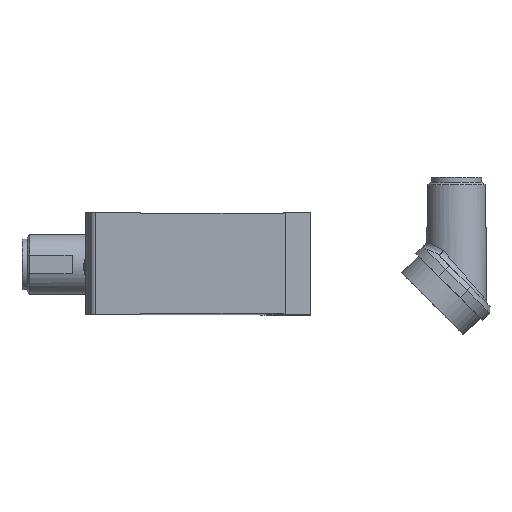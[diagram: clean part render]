
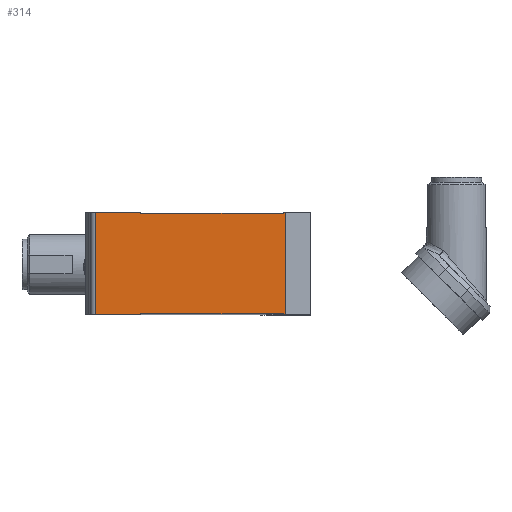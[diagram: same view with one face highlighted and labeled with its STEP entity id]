
A CAD part, top view. The second image highlights one B-rep face of the part: STEP entity #314.
In plain terms, the highlighted planar face has unit normal (0, 0, 1).
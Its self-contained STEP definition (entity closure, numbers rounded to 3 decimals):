
#314 = ADVANCED_FACE( '', ( #754 ), #755, .F. );
#754 = FACE_OUTER_BOUND( '', #1571, .T. );
#755 = PLANE( '', #1572 );
#1571 = EDGE_LOOP( '', ( #2861, #2862, #2863, #2864, #2865, #2866, #2867, #2868, #2869, #2870, #2871, #2872 ) );
#1572 = AXIS2_PLACEMENT_3D( '', #2873, #2874, #2875 );
#2861 = ORIENTED_EDGE( '', *, *, #4151, .F. );
#2862 = ORIENTED_EDGE( '', *, *, #4006, .T. );
#2863 = ORIENTED_EDGE( '', *, *, #4136, .T. );
#2864 = ORIENTED_EDGE( '', *, *, #4115, .T. );
#2865 = ORIENTED_EDGE( '', *, *, #4102, .T. );
#2866 = ORIENTED_EDGE( '', *, *, #4126, .T. );
#2867 = ORIENTED_EDGE( '', *, *, #4148, .T. );
#2868 = ORIENTED_EDGE( '', *, *, #4156, .T. );
#2869 = ORIENTED_EDGE( '', *, *, #4057, .F. );
#2870 = ORIENTED_EDGE( '', *, *, #4069, .T. );
#2871 = ORIENTED_EDGE( '', *, *, #4050, .T. );
#2872 = ORIENTED_EDGE( '', *, *, #4157, .T. );
#2873 = CARTESIAN_POINT( '', ( -34., 20.4, 110. ) );
#2874 = DIRECTION( '', ( 0., 0., -1. ) );
#2875 = DIRECTION( '', ( 0., -1., 0. ) );
#4006 = EDGE_CURVE( '', #4810, #4814, #4816, .T. );
#4050 = EDGE_CURVE( '', #4884, #4893, #4895, .T. );
#4057 = EDGE_CURVE( '', #4907, #4909, #4910, .T. );
#4069 = EDGE_CURVE( '', #4907, #4884, #4927, .T. );
#4102 = EDGE_CURVE( '', #4982, #4980, #4983, .T. );
#4115 = EDGE_CURVE( '', #4999, #4982, #5001, .T. );
#4126 = EDGE_CURVE( '', #4980, #5015, #5017, .T. );
#4136 = EDGE_CURVE( '', #4814, #4999, #5030, .T. );
#4148 = EDGE_CURVE( '', #5015, #5048, #5050, .T. );
#4151 = EDGE_CURVE( '', #4810, #5054, #5055, .T. );
#4156 = EDGE_CURVE( '', #5048, #4909, #5063, .T. );
#4157 = EDGE_CURVE( '', #4893, #5054, #5064, .T. );
#4810 = VERTEX_POINT( '', #6304 );
#4814 = VERTEX_POINT( '', #6309 );
#4816 = LINE( '', #6311, #6312 );
#4884 = VERTEX_POINT( '', #6448 );
#4893 = VERTEX_POINT( '', #6459 );
#4895 = LINE( '', #6462, #6463 );
#4907 = VERTEX_POINT( '', #6479 );
#4909 = VERTEX_POINT( '', #6482 );
#4910 = LINE( '', #6483, #6484 );
#4927 = LINE( '', #6509, #6510 );
#4980 = VERTEX_POINT( '', #6584 );
#4982 = VERTEX_POINT( '', #6587 );
#4983 = LINE( '', #6588, #6589 );
#4999 = VERTEX_POINT( '', #6615 );
#5001 = LINE( '', #6618, #6619 );
#5015 = VERTEX_POINT( '', #6640 );
#5017 = LINE( '', #6643, #6644 );
#5030 = LINE( '', #6663, #6664 );
#5048 = VERTEX_POINT( '', #6687 );
#5050 = LINE( '', #6690, #6691 );
#5054 = VERTEX_POINT( '', #6696 );
#5055 = LINE( '', #6697, #6698 );
#5063 = LINE( '', #6709, #6710 );
#5064 = LINE( '', #6711, #6712 );
#6304 = CARTESIAN_POINT( '', ( -33., 20.4, 110. ) );
#6309 = CARTESIAN_POINT( '', ( -33., 0., 110. ) );
#6311 = CARTESIAN_POINT( '', ( -33., 20.4, 110. ) );
#6312 = VECTOR( '', #8129, 1000. );
#6448 = CARTESIAN_POINT( '', ( 4.5, 20.25, 110. ) );
#6459 = CARTESIAN_POINT( '', ( -24., 20.25, 110. ) );
#6462 = CARTESIAN_POINT( '', ( -34., 20.25, 110. ) );
#6463 = VECTOR( '', #8204, 1000. );
#6479 = CARTESIAN_POINT( '', ( 4.5, 20.4, 110. ) );
#6482 = CARTESIAN_POINT( '', ( 5., 20.4, 110. ) );
#6483 = CARTESIAN_POINT( '', ( -34., 20.4, 110. ) );
#6484 = VECTOR( '', #8213, 1000. );
#6509 = CARTESIAN_POINT( '', ( 4.5, 20.4, 110. ) );
#6510 = VECTOR( '', #8231, 1000. );
#6584 = CARTESIAN_POINT( '', ( 4.5, 0.15, 110. ) );
#6587 = CARTESIAN_POINT( '', ( -24., 0.15, 110. ) );
#6588 = CARTESIAN_POINT( '', ( -34., 0.15, 110. ) );
#6589 = VECTOR( '', #8284, 1000. );
#6615 = CARTESIAN_POINT( '', ( -24., 0., 110. ) );
#6618 = CARTESIAN_POINT( '', ( -24., 20.4, 110. ) );
#6619 = VECTOR( '', #8299, 1000. );
#6640 = CARTESIAN_POINT( '', ( 4.5, 0., 110. ) );
#6643 = CARTESIAN_POINT( '', ( 4.5, 20.4, 110. ) );
#6644 = VECTOR( '', #8314, 1000. );
#6663 = CARTESIAN_POINT( '', ( -34., 0., 110. ) );
#6664 = VECTOR( '', #8330, 1000. );
#6687 = CARTESIAN_POINT( '', ( 5., 0., 110. ) );
#6690 = CARTESIAN_POINT( '', ( -34., 0., 110. ) );
#6691 = VECTOR( '', #8352, 1000. );
#6696 = CARTESIAN_POINT( '', ( -24., 20.4, 110. ) );
#6697 = CARTESIAN_POINT( '', ( -34., 20.4, 110. ) );
#6698 = VECTOR( '', #8357, 1000. );
#6709 = CARTESIAN_POINT( '', ( 5., 20.4, 110. ) );
#6710 = VECTOR( '', #8364, 1000. );
#6711 = CARTESIAN_POINT( '', ( -24., 20.4, 110. ) );
#6712 = VECTOR( '', #8365, 1000. );
#8129 = DIRECTION( '', ( 0., -1., 0. ) );
#8204 = DIRECTION( '', ( -1., 0., 0. ) );
#8213 = DIRECTION( '', ( 1., 0., 0. ) );
#8231 = DIRECTION( '', ( 0., -1., 0. ) );
#8284 = DIRECTION( '', ( 1., 0., 0. ) );
#8299 = DIRECTION( '', ( 0., 1., 0. ) );
#8314 = DIRECTION( '', ( 0., -1., 0. ) );
#8330 = DIRECTION( '', ( 1., 0., 0. ) );
#8352 = DIRECTION( '', ( 1., 0., 0. ) );
#8357 = DIRECTION( '', ( 1., 0., 0. ) );
#8364 = DIRECTION( '', ( 0., 1., 0. ) );
#8365 = DIRECTION( '', ( 0., 1., 0. ) );
